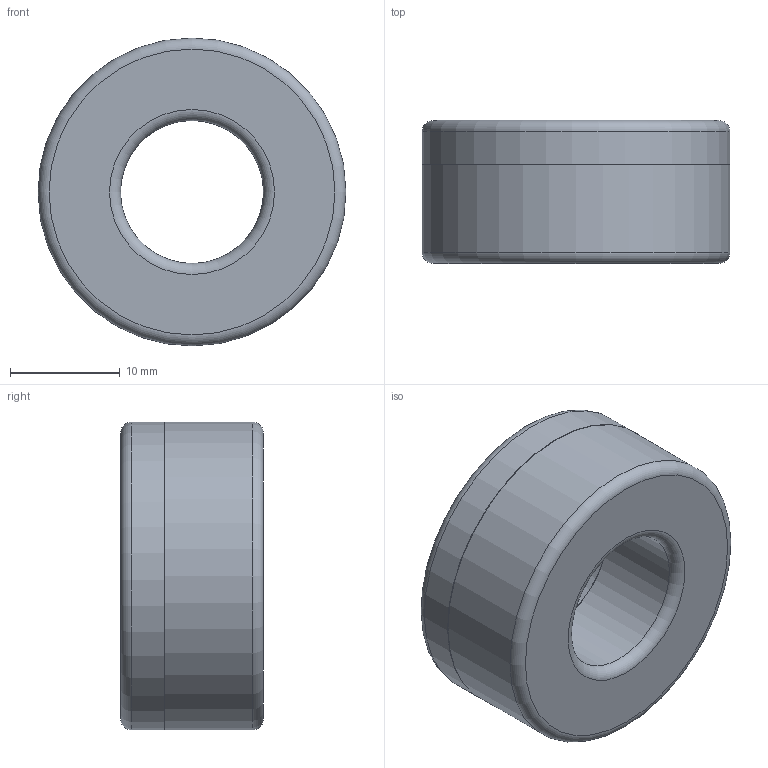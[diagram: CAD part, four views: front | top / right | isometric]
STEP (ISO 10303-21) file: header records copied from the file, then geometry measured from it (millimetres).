
FILE_DESCRIPTION(/* description */ (''),/* implementation_level */ '2;1');
FILE_NAME(/* name */ 'G:\KB-FTKon\CAD\Inventor\Kundenmodelle\Kerne\V313\V313_Shrinkwrap_1.stp',/* time_stamp */ '2020-01-13T11:31:28+01:00',/* author */ ('de881284'),/* organization */ (''),/* preprocessor_version */ 'ST-DEVELOPER v18',/* originating_system */ 'Autodesk Inventor 2020',/* authorisation */ '');
FILE_SCHEMA (('AUTOMOTIVE_DESIGN { 1 0 10303 214 3 1 1 }'));
Length unit declared in the file: millimetre
Products named in the file (1): V313_Shrinkwrap_1
Bounding box: 28.1 x 13.05 x 28.1 mm (x, y, z)
Volume: 6286.3 mm3; surface area: 2714.7 mm2
Topology: 1 solids, 1 shells, 18 faces, 40 edges, 28 vertices
Faces by surface type: plane 6, cylinder 6, torus 4, cone 2
Full cylindrical faces by diameter (mm): 13.05 x2, 14.05 x1, 27.1 x1, 28.1 x2
Entity records: 609 total; most frequent: DIRECTION 110, CARTESIAN_POINT 87, ORIENTED_EDGE 80, AXIS2_PLACEMENT_3D 51, EDGE_CURVE 40, CIRCLE 32, VERTEX_POINT 28, EDGE_LOOP 24
